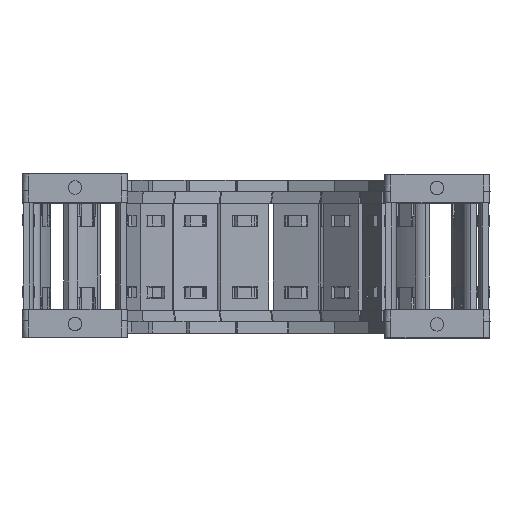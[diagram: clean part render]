
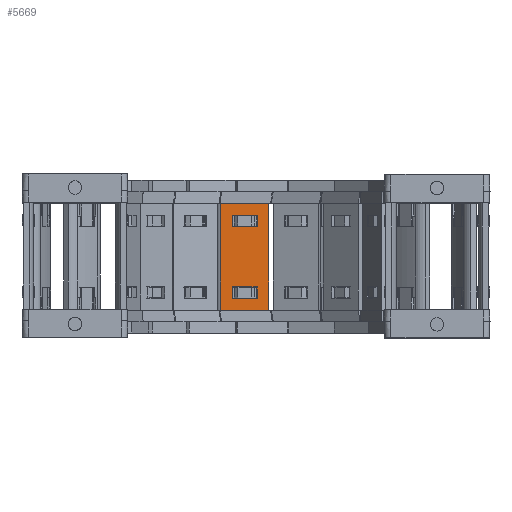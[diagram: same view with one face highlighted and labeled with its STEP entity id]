
A CAD part, top view. The second image highlights one B-rep face of the part: STEP entity #5669.
In plain terms, the highlighted planar face has unit normal (0.035, 0, 0.999) as drawn and (0, 1, 0) by its records, which use the part's own axes.
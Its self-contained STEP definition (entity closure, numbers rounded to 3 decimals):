
#5089=DIRECTION('',(0.,0.,1.));
#5090=VECTOR('',#5089,15.8);
#5091=CARTESIAN_POINT('',(20.24,1.5,-7.9));
#5092=LINE('',#5091,#5090);
#5093=DIRECTION('',(-1.,0.,0.));
#5094=VECTOR('',#5093,35.);
#5095=CARTESIAN_POINT('',(20.24,1.5,7.9));
#5096=LINE('',#5095,#5094);
#5097=DIRECTION('',(0.,0.,-1.));
#5098=VECTOR('',#5097,15.8);
#5099=CARTESIAN_POINT('',(-14.76,1.5,7.9));
#5100=LINE('',#5099,#5098);
#5101=DIRECTION('',(1.,0.,0.));
#5102=VECTOR('',#5101,3.648);
#5103=CARTESIAN_POINT('',(12.622,1.5,4.075));
#5104=LINE('',#5103,#5102);
#5105=DIRECTION('',(0.,0.,-1.));
#5106=VECTOR('',#5105,8.15);
#5107=CARTESIAN_POINT('',(16.27,1.5,4.075));
#5108=LINE('',#5107,#5106);
#5109=DIRECTION('',(-1.,0.,0.));
#5110=VECTOR('',#5109,3.648);
#5111=CARTESIAN_POINT('',(16.27,1.5,-4.075));
#5112=LINE('',#5111,#5110);
#5113=DIRECTION('',(0.,0.,-1.));
#5114=VECTOR('',#5113,8.15);
#5115=CARTESIAN_POINT('',(-7.142,1.5,4.075));
#5116=LINE('',#5115,#5114);
#5117=DIRECTION('',(-1.,0.,0.));
#5118=VECTOR('',#5117,3.648);
#5119=CARTESIAN_POINT('',(-7.142,1.5,-4.075));
#5120=LINE('',#5119,#5118);
#5121=DIRECTION('',(0.,0.,1.));
#5122=VECTOR('',#5121,8.15);
#5123=CARTESIAN_POINT('',(-10.79,1.5,-4.075));
#5124=LINE('',#5123,#5122);
#5125=DIRECTION('',(1.,0.,0.));
#5126=VECTOR('',#5125,3.648);
#5127=CARTESIAN_POINT('',(-10.79,1.5,4.075));
#5128=LINE('',#5127,#5126);
#5133=DIRECTION('',(-1.,0.,0.));
#5134=VECTOR('',#5133,35.);
#5135=CARTESIAN_POINT('',(20.24,1.5,-7.9));
#5136=LINE('',#5135,#5134);
#5254=DIRECTION('',(0.,0.,-1.));
#5255=VECTOR('',#5254,8.15);
#5256=CARTESIAN_POINT('',(12.622,1.5,4.075));
#5257=LINE('',#5256,#5255);
#5439=CARTESIAN_POINT('',(16.27,1.5,4.075));
#5440=VERTEX_POINT('',#5439);
#5441=CARTESIAN_POINT('',(12.622,1.5,4.075));
#5442=VERTEX_POINT('',#5441);
#5483=CARTESIAN_POINT('',(12.622,1.5,-4.075));
#5484=VERTEX_POINT('',#5483);
#5485=CARTESIAN_POINT('',(16.27,1.5,-4.075));
#5486=VERTEX_POINT('',#5485);
#5487=CARTESIAN_POINT('',(20.24,1.5,7.9));
#5489=VERTEX_POINT('',#5487);
#5491=CARTESIAN_POINT('',(20.24,1.5,-7.9));
#5492=VERTEX_POINT('',#5491);
#5515=CARTESIAN_POINT('',(-7.142,1.5,4.075));
#5516=CARTESIAN_POINT('',(-7.142,1.5,-4.075));
#5517=VERTEX_POINT('',#5515);
#5518=VERTEX_POINT('',#5516);
#5519=CARTESIAN_POINT('',(-10.79,1.5,-4.075));
#5520=VERTEX_POINT('',#5519);
#5521=CARTESIAN_POINT('',(-10.79,1.5,4.075));
#5522=VERTEX_POINT('',#5521);
#5523=CARTESIAN_POINT('',(-14.76,1.5,7.9));
#5524=VERTEX_POINT('',#5523);
#5527=CARTESIAN_POINT('',(-14.76,1.5,-7.9));
#5528=VERTEX_POINT('',#5527);
#5638=CARTESIAN_POINT('',(51.98,1.5,10.061));
#5639=DIRECTION('',(0.,-1.,0.));
#5640=DIRECTION('',(0.,0.,-1.));
#5641=AXIS2_PLACEMENT_3D('',#5638,#5639,#5640);
#5642=PLANE('',#5641);
#5643=ORIENTED_EDGE('',*,*,#5577,.T.);
#5644=ORIENTED_EDGE('',*,*,#5603,.T.);
#5645=ORIENTED_EDGE('',*,*,#5616,.T.);
#5647=ORIENTED_EDGE('',*,*,#5646,.F.);
#5648=EDGE_LOOP('',(#5643,#5644,#5645,#5647));
#5649=FACE_OUTER_BOUND('',#5648,.F.);
#5651=ORIENTED_EDGE('',*,*,#5650,.F.);
#5652=ORIENTED_EDGE('',*,*,#5540,.T.);
#5654=ORIENTED_EDGE('',*,*,#5653,.T.);
#5656=ORIENTED_EDGE('',*,*,#5655,.T.);
#5657=EDGE_LOOP('',(#5651,#5652,#5654,#5656));
#5658=FACE_BOUND('',#5657,.F.);
#5660=ORIENTED_EDGE('',*,*,#5659,.T.);
#5662=ORIENTED_EDGE('',*,*,#5661,.T.);
#5664=ORIENTED_EDGE('',*,*,#5663,.T.);
#5666=ORIENTED_EDGE('',*,*,#5665,.T.);
#5667=EDGE_LOOP('',(#5660,#5662,#5664,#5666));
#5668=FACE_BOUND('',#5667,.F.);
#5669=ADVANCED_FACE('',(#5649,#5658,#5668),#5642,.F.);
#5540=EDGE_CURVE('',#5442,#5440,#5104,.T.);
#5577=EDGE_CURVE('',#5492,#5489,#5092,.T.);
#5603=EDGE_CURVE('',#5489,#5524,#5096,.T.);
#5616=EDGE_CURVE('',#5524,#5528,#5100,.T.);
#5646=EDGE_CURVE('',#5492,#5528,#5136,.T.);
#5650=EDGE_CURVE('',#5442,#5484,#5257,.T.);
#5653=EDGE_CURVE('',#5440,#5486,#5108,.T.);
#5655=EDGE_CURVE('',#5486,#5484,#5112,.T.);
#5659=EDGE_CURVE('',#5517,#5518,#5116,.T.);
#5661=EDGE_CURVE('',#5518,#5520,#5120,.T.);
#5663=EDGE_CURVE('',#5520,#5522,#5124,.T.);
#5665=EDGE_CURVE('',#5522,#5517,#5128,.T.);
